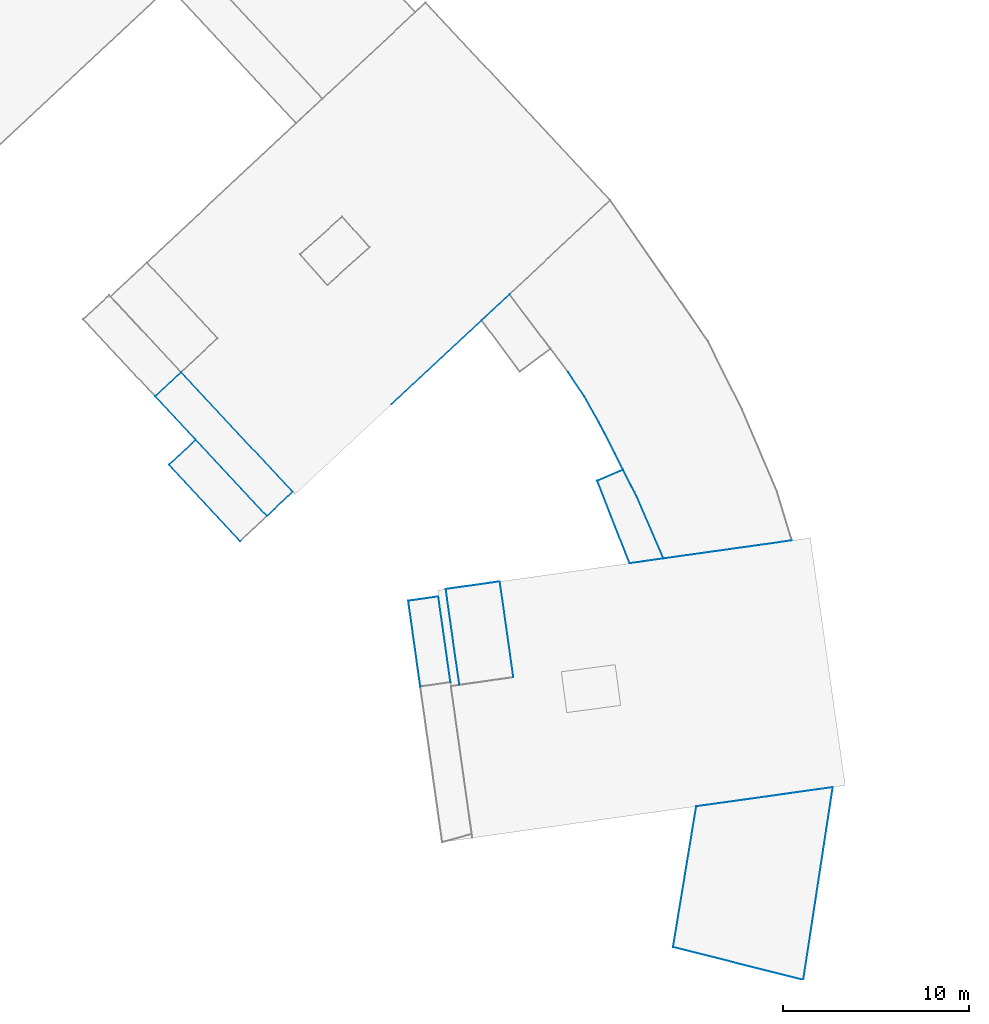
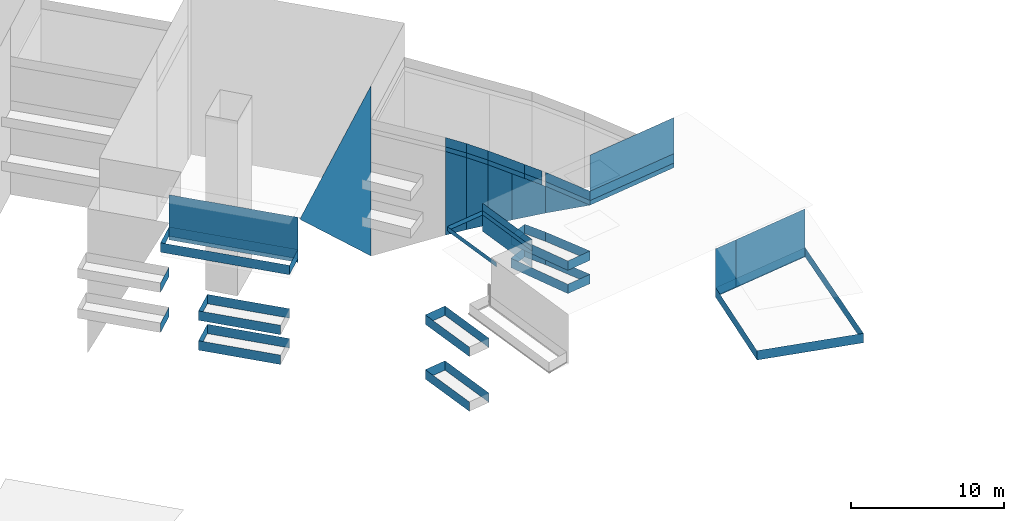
# Not in any storey, part 18 of 136: 99 walls.
"""IFC2X3 building model written with IfcOpenShell, lengths in metres."""

from ifc_helpers import new_model, entity, si_unit, converted_unit, frame, origin, place, context, subcontext, project, spatial, face_set, surface_model, element, save


model = new_model("IFC2X3")

# Units and contexts
model_context = context("Model", 3, precision=1e-05, world=origin())
body_context = subcontext(model_context, "Body", "Model", "MODEL_VIEW")
ifc_project = project(units=[converted_unit("PLANEANGLEUNIT", "DEGREE", entity("IfcRatioMeasure", 0.0174532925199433), si_unit("PLANEANGLEUNIT", "RADIAN"), dimensions=[0, 0, 0, 0, 0, 0, 0]), si_unit("AREAUNIT", "SQUARE_METRE"), si_unit("LENGTHUNIT", "METRE")], contexts=[model_context])

# Site, building
site_placement = place(None, origin())
site = spatial("IfcSite", under=ifc_project, at=site_placement, Name="_site", CompositionType="ELEMENT")
building_1_placement = place(site_placement, origin())
building_1 = spatial("IfcBuilding", under=site, at=building_1_placement, Name="_building", CompositionType="ELEMENT")

# Walls
wall_1_placement = place(building_1_placement, origin())
element("IfcWall", 1, at=wall_1_placement, inside=building_1, Name="Wall", context=body_context, shape_type="SurfaceModel", body=[
    surface_model("IfcFaceBasedSurfaceModel", [(144.0, -39.33, 45.37), (142.61, -40.63, 45.37), (142.61, -40.63, 46.12), (144.0, -39.33, 46.12)], [face_set([[[0, 1, 2, 3]]])]),
])
wall_2_placement = place(building_1_placement, origin())
element("IfcWall", 2, at=wall_2_placement, inside=building_1, Name="Wall", context=body_context, shape_type="SurfaceModel", body=[
    surface_model("IfcFaceBasedSurfaceModel", [(166.41, -45.18, 43.64), (167.8, -44.58, 43.64), (167.8, -44.58, 44.39), (166.41, -45.18, 44.39)], [face_set([[[0, 1, 2, 3]]])]),
])
wall_3_placement = place(building_1_placement, origin())
element("IfcWall", 3, at=wall_3_placement, inside=building_1, Name="Wall", context=body_context, shape_type="SurfaceModel", body=[
    surface_model("IfcFaceBasedSurfaceModel", [(168.15, -49.62, 43.64), (166.41, -45.18, 43.64), (166.41, -45.18, 44.39), (168.15, -49.62, 44.39)], [face_set([[[0, 1, 2, 3]]])]),
])
wall_4_placement = place(building_1_placement, origin())
element("IfcWall", 4, at=wall_4_placement, inside=building_1, Name="Wall", context=body_context, shape_type="SurfaceModel", body=[
    surface_model("IfcFaceBasedSurfaceModel", [(168.54, -46.04, 43.64), (169.98, -49.36, 43.64), (169.98, -49.36, 44.39), (168.54, -46.04, 44.39)], [face_set([[[0, 1, 2, 3]]])]),
])
wall_5_placement = place(building_1_placement, origin())
element("IfcWall", 5, at=wall_5_placement, inside=building_1, Name="Wall", context=body_context, shape_type="SurfaceModel", body=[
    surface_model("IfcFaceBasedSurfaceModel", [(166.41, -45.18, 43.64), (167.8, -44.58, 43.64), (167.8, -44.58, 44.39), (166.41, -45.18, 44.39)], [face_set([[[0, 1, 2, 3]]])]),
])
wall_6_placement = place(building_1_placement, origin())
element("IfcWall", 6, at=wall_6_placement, inside=building_1, Name="Wall", context=body_context, shape_type="SurfaceModel", body=[
    surface_model("IfcFaceBasedSurfaceModel", [(168.15, -49.62, 43.64), (166.41, -45.18, 43.64), (166.41, -45.18, 44.39), (168.15, -49.62, 44.39)], [face_set([[[0, 1, 2, 3]]])]),
])
wall_7_placement = place(building_1_placement, origin())
element("IfcWall", 7, at=wall_7_placement, inside=building_1, Name="Wall", context=body_context, shape_type="SurfaceModel", body=[
    surface_model("IfcFaceBasedSurfaceModel", [(143.35, -44.31, 45.12), (144.79, -42.97, 45.12), (144.79, -42.97, 45.87), (143.35, -44.31, 45.87)], [face_set([[[0, 1, 2, 3]]])]),
])
wall_8_placement = place(building_1_placement, origin())
element("IfcWall", 8, at=wall_8_placement, inside=building_1, Name="Wall", context=body_context, shape_type="SurfaceModel", body=[
    surface_model("IfcFaceBasedSurfaceModel", [(147.18, -48.42, 45.12), (143.35, -44.31, 45.12), (143.35, -44.31, 45.87), (147.18, -48.42, 45.87)], [face_set([[[0, 1, 2, 3]]])]),
])
wall_9_placement = place(building_1_placement, origin())
element("IfcWall", 9, at=wall_9_placement, inside=building_1, Name="Wall", context=body_context, shape_type="SurfaceModel", body=[
    surface_model("IfcFaceBasedSurfaceModel", [(144.79, -42.97, 45.12), (148.62, -47.07, 45.12), (148.62, -47.07, 45.87), (144.79, -42.97, 45.87)], [face_set([[[0, 1, 2, 3]]])]),
])
wall_10_placement = place(building_1_placement, origin())
element("IfcWall", 10, at=wall_10_placement, inside=building_1, Name="Wall", context=body_context, shape_type="SurfaceModel", body=[
    surface_model("IfcFaceBasedSurfaceModel", [(143.35, -44.31, 45.12), (144.79, -42.97, 45.12), (144.79, -42.97, 45.87), (143.35, -44.31, 45.87)], [face_set([[[0, 1, 2, 3]]])]),
])
wall_11_placement = place(building_1_placement, origin())
element("IfcWall", 11, at=wall_11_placement, inside=building_1, Name="Wall", context=body_context, shape_type="SurfaceModel", body=[
    surface_model("IfcFaceBasedSurfaceModel", [(147.18, -48.42, 45.12), (143.35, -44.31, 45.12), (143.35, -44.31, 45.87), (147.18, -48.42, 45.87)], [face_set([[[0, 1, 2, 3]]])]),
])
wall_12_placement = place(building_1_placement, origin())
element("IfcWall", 12, at=wall_12_placement, inside=building_1, Name="Wall", context=body_context, shape_type="SurfaceModel", body=[
    surface_model("IfcFaceBasedSurfaceModel", [(156.23, -51.64, 40.37), (157.85, -51.41, 40.37), (157.85, -51.41, 41.12), (156.23, -51.64, 41.12)], [face_set([[[0, 1, 2, 3]]])]),
])
wall_13_placement = place(building_1_placement, origin())
element("IfcWall", 13, at=wall_13_placement, inside=building_1, Name="Wall", context=body_context, shape_type="SurfaceModel", body=[
    surface_model("IfcFaceBasedSurfaceModel", [(156.88, -56.26, 40.37), (156.23, -51.64, 40.37), (156.23, -51.64, 41.12), (156.88, -56.26, 41.12)], [face_set([[[0, 1, 2, 3]]])]),
])
wall_14_placement = place(building_1_placement, origin())
element("IfcWall", 14, at=wall_14_placement, inside=building_1, Name="Wall", context=body_context, shape_type="SurfaceModel", body=[
    surface_model("IfcFaceBasedSurfaceModel", [(157.85, -51.41, 40.37), (158.5, -56.03, 40.37), (158.5, -56.03, 41.12), (157.85, -51.41, 41.12)], [face_set([[[0, 1, 2, 3]]])]),
])
wall_15_placement = place(building_1_placement, origin())
element("IfcWall", 15, at=wall_15_placement, inside=building_1, Name="Wall", context=body_context, shape_type="SurfaceModel", body=[
    surface_model("IfcFaceBasedSurfaceModel", [(156.23, -51.64, 40.37), (157.85, -51.41, 40.37), (157.85, -51.41, 41.12), (156.23, -51.64, 41.12)], [face_set([[[0, 1, 2, 3]]])]),
])
wall_16_placement = place(building_1_placement, origin())
element("IfcWall", 16, at=wall_16_placement, inside=building_1, Name="Wall", context=body_context, shape_type="SurfaceModel", body=[
    surface_model("IfcFaceBasedSurfaceModel", [(156.88, -56.26, 40.37), (156.23, -51.64, 40.37), (156.23, -51.64, 41.12), (156.88, -56.26, 41.12)], [face_set([[[0, 1, 2, 3]]])]),
])
wall_17_placement = place(building_1_placement, origin())
element("IfcWall", 17, at=wall_17_placement, inside=building_1, Name="Wall", context=body_context, shape_type="SurfaceModel", body=[
    surface_model("IfcFaceBasedSurfaceModel", [(148.62, -47.07, 48.58), (142.61, -40.63, 48.58), (142.61, -40.63, 49.33), (148.62, -47.07, 49.33)], [face_set([[[0, 1, 2, 3]]])]),
])
wall_18_placement = place(building_1_placement, origin())
element("IfcWall", 18, at=wall_18_placement, inside=building_1, Name="Wall", context=body_context, shape_type="SurfaceModel", body=[
    surface_model("IfcFaceBasedSurfaceModel", [(150.01, -45.77, 48.58), (148.62, -47.07, 48.58), (148.62, -47.07, 49.33), (150.01, -45.77, 49.33)], [face_set([[[0, 1, 2, 3]]])]),
])
wall_19_placement = place(building_1_placement, origin())
element("IfcWall", 19, at=wall_19_placement, inside=building_1, Name="Wall", context=body_context, shape_type="SurfaceModel", body=[
    surface_model("IfcFaceBasedSurfaceModel", [(142.61, -40.63, 48.58), (144.0, -39.33, 48.58), (144.0, -39.33, 49.33), (142.61, -40.63, 49.33)], [face_set([[[0, 1, 2, 3]]])]),
])
wall_20_placement = place(building_1_placement, origin())
element("IfcWall", 20, at=wall_20_placement, inside=building_1, Name="Wall", context=body_context, shape_type="SurfaceModel", body=[
    surface_model("IfcFaceBasedSurfaceModel", [(148.62, -47.07, 48.58), (142.61, -40.63, 48.58), (142.61, -40.63, 49.33), (148.62, -47.07, 49.33)], [face_set([[[0, 1, 2, 3]]])]),
])
wall_21_placement = place(building_1_placement, origin())
element("IfcWall", 21, at=wall_21_placement, inside=building_1, Name="Wall", context=body_context, shape_type="SurfaceModel", body=[
    surface_model("IfcFaceBasedSurfaceModel", [(150.01, -45.77, 48.58), (148.62, -47.07, 48.58), (148.62, -47.07, 49.33), (150.01, -45.77, 49.33)], [face_set([[[0, 1, 2, 3]]])]),
])
wall_22_placement = place(building_1_placement, origin())
element("IfcWall", 22, at=wall_22_placement, inside=building_1, Name="Wall", context=body_context, shape_type="SurfaceModel", body=[
    surface_model("IfcFaceBasedSurfaceModel", [(142.61, -40.63, 48.58), (144.0, -39.33, 48.58), (144.0, -39.33, 49.33), (142.61, -40.63, 49.33)], [face_set([[[0, 1, 2, 3]]])]),
])
wall_23_placement = place(building_1_placement, origin())
element("IfcWall", 23, at=wall_23_placement, inside=building_1, Name="Wall", context=body_context, shape_type="SurfaceModel", body=[
    surface_model("IfcFaceBasedSurfaceModel", [(156.23, -51.64, 44.74), (157.85, -51.41, 44.74), (157.85, -51.41, 45.49), (156.23, -51.64, 45.49)], [face_set([[[0, 1, 2, 3]]])]),
])
wall_24_placement = place(building_1_placement, origin())
element("IfcWall", 24, at=wall_24_placement, inside=building_1, Name="Wall", context=body_context, shape_type="SurfaceModel", body=[
    surface_model("IfcFaceBasedSurfaceModel", [(156.88, -56.26, 44.74), (156.23, -51.64, 44.74), (156.23, -51.64, 45.49), (156.88, -56.26, 45.49)], [face_set([[[0, 1, 2, 3]]])]),
])
wall_25_placement = place(building_1_placement, origin())
element("IfcWall", 25, at=wall_25_placement, inside=building_1, Name="Wall", context=body_context, shape_type="SurfaceModel", body=[
    surface_model("IfcFaceBasedSurfaceModel", [(157.85, -51.41, 44.74), (158.5, -56.03, 44.74), (158.5, -56.03, 45.49), (157.85, -51.41, 45.49)], [face_set([[[0, 1, 2, 3]]])]),
])
wall_26_placement = place(building_1_placement, origin())
element("IfcWall", 26, at=wall_26_placement, inside=building_1, Name="Wall", context=body_context, shape_type="SurfaceModel", body=[
    surface_model("IfcFaceBasedSurfaceModel", [(156.23, -51.64, 44.74), (157.85, -51.41, 44.74), (157.85, -51.41, 45.49), (156.23, -51.64, 45.49)], [face_set([[[0, 1, 2, 3]]])]),
])
wall_27_placement = place(building_1_placement, origin())
element("IfcWall", 27, at=wall_27_placement, inside=building_1, Name="Wall", context=body_context, shape_type="SurfaceModel", body=[
    surface_model("IfcFaceBasedSurfaceModel", [(156.88, -56.26, 44.74), (156.23, -51.64, 44.74), (156.23, -51.64, 45.49), (156.88, -56.26, 45.49)], [face_set([[[0, 1, 2, 3]]])]),
])
wall_28_placement = place(building_1_placement, origin())
element("IfcWall", 28, at=wall_28_placement, inside=building_1, Name="Wall", context=body_context, shape_type="SurfaceModel", body=[
    surface_model("IfcFaceBasedSurfaceModel", [(176.89, -48.39, 48.41), (169.98, -49.36, 48.41), (169.98, -49.36, 48.04), (176.89, -48.39, 48.04)], [face_set([[[0, 1, 2, 3]]])]),
])
wall_29_placement = place(building_1_placement, origin())
element("IfcWall", 29, at=wall_29_placement, inside=building_1, Name="Wall", context=body_context, shape_type="SurfaceModel", body=[
    surface_model("IfcFaceBasedSurfaceModel", [(165.71, -40.63, 48.41), (164.85, -39.33, 48.41), (164.85, -39.33, 48.04), (165.71, -40.63, 48.04)], [face_set([[[0, 1, 2, 3]]])]),
])
wall_30_placement = place(building_1_placement, origin())
element("IfcWall", 30, at=wall_30_placement, inside=building_1, Name="Wall", context=body_context, shape_type="SurfaceModel", body=[
    surface_model("IfcFaceBasedSurfaceModel", [(166.51, -42.04, 48.41), (165.71, -40.63, 48.41), (165.71, -40.63, 48.04), (166.51, -42.04, 48.04)], [face_set([[[0, 1, 2, 3]]])]),
])
wall_31_placement = place(building_1_placement, origin())
element("IfcWall", 31, at=wall_31_placement, inside=building_1, Name="Wall", context=body_context, shape_type="SurfaceModel", body=[
    surface_model("IfcFaceBasedSurfaceModel", [(169.98, -49.36, 48.41), (168.54, -46.04, 48.41), (168.54, -46.04, 48.04), (169.98, -49.36, 48.04)], [face_set([[[0, 1, 2, 3]]])]),
])
for number, where, name in (
    (32, (0.0, 0.0, 0.0), "Wall"),
    (33, (0.0, 0.0, 0.0), "Wall"),
):
    element("IfcWall", number, at=place(building_1_placement, frame(where)), inside=building_1, Name=name, context=body_context, shape_type="SurfaceModel", body=[
        surface_model("IfcFaceBasedSurfaceModel", [(170.49, -70.29, 48.2), (171.74, -62.71, 48.2), (171.74, -62.71, 48.95), (170.49, -70.29, 48.95)], [face_set([[[0, 1, 2, 3]]])]),
    ])
wall_32_placement = place(building_1_placement, origin())
element("IfcWall", 34, at=wall_32_placement, inside=building_1, Name="Wall", context=body_context, shape_type="SurfaceModel", body=[
    surface_model("IfcFaceBasedSurfaceModel", [(165.71, -40.63, 48.04), (164.85, -39.33, 48.04), (164.85, -39.33, 41.367), (165.71, -40.63, 42.288)], [face_set([[[0, 1, 2, 3]]])]),
])
wall_33_placement = place(building_1_placement, origin())
element("IfcWall", 35, at=wall_33_placement, inside=building_1, Name="Wall", context=body_context, shape_type="SurfaceModel", body=[
    surface_model("IfcFaceBasedSurfaceModel", [(166.51, -42.04, 48.04), (165.71, -40.63, 48.04), (165.71, -40.63, 42.288), (166.51, -42.04, 43.247)], [face_set([[[0, 1, 2, 3]]])]),
])
wall_34_placement = place(building_1_placement, origin())
element("IfcWall", 36, at=wall_34_placement, inside=building_1, Name="Wall", context=body_context, shape_type="SurfaceModel", body=[
    surface_model("IfcFaceBasedSurfaceModel", [(167.36, -43.72, 48.04), (166.51, -42.04, 48.04), (166.51, -42.04, 43.247), (167.36, -43.72, 44.361)], [face_set([[[0, 1, 2, 3]]])]),
])
wall_35_placement = place(building_1_placement, origin())
element("IfcWall", 37, at=wall_35_placement, inside=building_1, Name="Wall", context=body_context, shape_type="SurfaceModel", body=[
    surface_model("IfcFaceBasedSurfaceModel", [(168.54, -46.04, 48.04), (167.36, -43.72, 48.04), (167.36, -43.72, 44.361), (168.54, -46.04, 45.9)], [face_set([[[0, 1, 2, 3]]])]),
])
wall_36_placement = place(building_1_placement, origin())
element("IfcWall", 38, at=wall_36_placement, inside=building_1, Name="Wall", context=body_context, shape_type="SurfaceModel", body=[
    surface_model("IfcFaceBasedSurfaceModel", [(169.98, -49.36, 48.04), (168.54, -46.04, 48.04), (168.54, -46.04, 45.9)], [face_set([[[0, 1, 2]]])]),
])
wall_37_placement = place(building_1_placement, origin())
element("IfcWall", 39, at=wall_37_placement, inside=building_1, Name="Wall", context=body_context, shape_type="SurfaceModel", body=[
    surface_model("IfcFaceBasedSurfaceModel", [(161.68, -35.13, 51.89), (150.13, -45.899, 51.89), (150.13, -45.899, 51.74), (161.68, -35.13, 38.255)], [face_set([[[0, 1, 2, 3]]])]),
])
wall_38_placement = place(building_1_placement, origin())
element("IfcWall", 40, at=wall_38_placement, inside=building_1, Name="Wall", context=body_context, shape_type="SurfaceModel", body=[
    surface_model("IfcFaceBasedSurfaceModel", [(169.98, -49.36, 52.04), (176.89, -48.39, 52.04), (176.89, -48.39, 48.04), (169.98, -49.36, 48.04)], [face_set([[[0, 1, 2, 3]]])]),
])
wall_39_placement = place(building_1_placement, origin())
element("IfcWall", 41, at=wall_39_placement, inside=building_1, Name="Wall", context=body_context, shape_type="SurfaceModel", body=[
    surface_model("IfcFaceBasedSurfaceModel", [(165.71, -40.63, 48.41), (164.85, -39.33, 48.41), (164.85, -39.33, 49.16), (165.71, -40.63, 49.16)], [face_set([[[0, 1, 2, 3]]])]),
])
wall_40_placement = place(building_1_placement, origin())
element("IfcWall", 42, at=wall_40_placement, inside=building_1, Name="Wall", context=body_context, shape_type="SurfaceModel", body=[
    surface_model("IfcFaceBasedSurfaceModel", [(166.51, -42.04, 48.41), (165.71, -40.63, 48.41), (165.71, -40.63, 49.16), (166.51, -42.04, 49.16)], [face_set([[[0, 1, 2, 3]]])]),
])
wall_41_placement = place(building_1_placement, origin())
element("IfcWall", 43, at=wall_41_placement, inside=building_1, Name="Wall", context=body_context, shape_type="SurfaceModel", body=[
    surface_model("IfcFaceBasedSurfaceModel", [(167.8, -44.58, 48.41), (166.51, -42.04, 48.41), (166.51, -42.04, 49.16), (167.8, -44.58, 49.16)], [face_set([[[0, 1, 2, 3]]])]),
])
wall_42_placement = place(building_1_placement, origin())
element("IfcWall", 44, at=wall_42_placement, inside=building_1, Name="Wall", context=body_context, shape_type="SurfaceModel", body=[
    surface_model("IfcFaceBasedSurfaceModel", [(168.42, -45.8, 48.41), (167.8, -44.58, 48.41), (167.8, -44.58, 49.16), (168.42, -45.8, 49.16)], [face_set([[[0, 1, 2, 3]]])]),
])
wall_43_placement = place(building_1_placement, origin())
element("IfcWall", 45, at=wall_43_placement, inside=building_1, Name="Wall", context=body_context, shape_type="SurfaceModel", body=[
    surface_model("IfcFaceBasedSurfaceModel", [(169.98, -49.36, 48.41), (168.54, -46.04, 48.41), (168.54, -46.04, 49.16), (169.98, -49.36, 49.16)], [face_set([[[0, 1, 2, 3]]])]),
])
wall_44_placement = place(building_1_placement, origin())
element("IfcWall", 46, at=wall_44_placement, inside=building_1, Name="Wall", context=body_context, shape_type="SurfaceModel", body=[
    surface_model("IfcFaceBasedSurfaceModel", [(176.89, -48.39, 48.41), (169.98, -49.36, 48.41), (169.98, -49.36, 49.16), (176.89, -48.39, 49.16)], [face_set([[[0, 1, 2, 3]]])]),
])
wall_45_placement = place(building_1_placement, origin())
element("IfcWall", 47, at=wall_45_placement, inside=building_1, Name="Wall", context=body_context, shape_type="SurfaceModel", body=[
    surface_model("IfcFaceBasedSurfaceModel", [(165.71, -40.63, 48.41), (164.85, -39.33, 48.41), (164.85, -39.33, 49.16), (165.71, -40.63, 49.16)], [face_set([[[0, 1, 2, 3]]])]),
])
wall_46_placement = place(building_1_placement, origin())
element("IfcWall", 48, at=wall_46_placement, inside=building_1, Name="Wall", context=body_context, shape_type="SurfaceModel", body=[
    surface_model("IfcFaceBasedSurfaceModel", [(166.51, -42.04, 48.41), (165.71, -40.63, 48.41), (165.71, -40.63, 49.16), (166.51, -42.04, 49.16)], [face_set([[[0, 1, 2, 3]]])]),
])
wall_47_placement = place(building_1_placement, origin())
element("IfcWall", 49, at=wall_47_placement, inside=building_1, Name="Wall", context=body_context, shape_type="SurfaceModel", body=[
    surface_model("IfcFaceBasedSurfaceModel", [(169.98, -49.36, 48.41), (168.54, -46.04, 48.41), (168.54, -46.04, 49.16), (169.98, -49.36, 49.16)], [face_set([[[0, 1, 2, 3]]])]),
])
wall_48_placement = place(building_1_placement, origin())
element("IfcWall", 50, at=wall_48_placement, inside=building_1, Name="Wall", context=body_context, shape_type="SurfaceModel", body=[
    surface_model("IfcFaceBasedSurfaceModel", [(158.25, -51.01, 51.45), (161.16, -50.6, 51.45), (161.16, -50.6, 51.1), (158.25, -51.01, 51.1)], [face_set([[[0, 1, 2, 3]]])]),
])
wall_49_placement = place(building_1_placement, origin())
element("IfcWall", 51, at=wall_49_placement, inside=building_1, Name="Wall", context=body_context, shape_type="SurfaceModel", body=[
    surface_model("IfcFaceBasedSurfaceModel", [(144.0, -39.33, 42.17), (142.61, -40.63, 42.17), (142.61, -40.63, 42.92), (144.0, -39.33, 42.92)], [face_set([[[0, 1, 2, 3]]])]),
])
wall_50_placement = place(building_1_placement, origin())
element("IfcWall", 52, at=wall_50_placement, inside=building_1, Name="Wall", context=body_context, shape_type="SurfaceModel", body=[
    surface_model("IfcFaceBasedSurfaceModel", [(143.35, -44.31, 42.74), (144.79, -42.97, 42.74), (144.79, -42.97, 43.49), (143.35, -44.31, 43.49)], [face_set([[[0, 1, 2, 3]]])]),
])
wall_51_placement = place(building_1_placement, origin())
element("IfcWall", 53, at=wall_51_placement, inside=building_1, Name="Wall", context=body_context, shape_type="SurfaceModel", body=[
    surface_model("IfcFaceBasedSurfaceModel", [(147.18, -48.42, 42.74), (143.35, -44.31, 42.74), (143.35, -44.31, 43.49), (147.18, -48.42, 43.49)], [face_set([[[0, 1, 2, 3]]])]),
])
wall_52_placement = place(building_1_placement, origin())
element("IfcWall", 54, at=wall_52_placement, inside=building_1, Name="Wall", context=body_context, shape_type="SurfaceModel", body=[
    surface_model("IfcFaceBasedSurfaceModel", [(144.79, -42.97, 42.74), (148.62, -47.07, 42.74), (148.62, -47.07, 43.49), (144.79, -42.97, 43.49)], [face_set([[[0, 1, 2, 3]]])]),
])
wall_53_placement = place(building_1_placement, origin())
element("IfcWall", 55, at=wall_53_placement, inside=building_1, Name="Wall", context=body_context, shape_type="SurfaceModel", body=[
    surface_model("IfcFaceBasedSurfaceModel", [(143.35, -44.31, 42.74), (144.79, -42.97, 42.74), (144.79, -42.97, 43.49), (143.35, -44.31, 43.49)], [face_set([[[0, 1, 2, 3]]])]),
])
wall_54_placement = place(building_1_placement, origin())
element("IfcWall", 56, at=wall_54_placement, inside=building_1, Name="Wall", context=body_context, shape_type="SurfaceModel", body=[
    surface_model("IfcFaceBasedSurfaceModel", [(147.18, -48.42, 42.74), (143.35, -44.31, 42.74), (143.35, -44.31, 43.49), (147.18, -48.42, 43.49)], [face_set([[[0, 1, 2, 3]]])]),
])
wall_55_placement = place(building_1_placement, origin())
element("IfcWall", 57, at=wall_55_placement, inside=building_1, Name="Wall", context=body_context, shape_type="SurfaceModel", body=[
    surface_model("IfcFaceBasedSurfaceModel", [(166.41, -45.18, 41.78), (167.8, -44.58, 41.78), (167.8, -44.58, 42.53), (166.41, -45.18, 42.53)], [face_set([[[0, 1, 2, 3]]])]),
])
wall_56_placement = place(building_1_placement, origin())
element("IfcWall", 58, at=wall_56_placement, inside=building_1, Name="Wall", context=body_context, shape_type="SurfaceModel", body=[
    surface_model("IfcFaceBasedSurfaceModel", [(168.15, -49.62, 41.78), (166.41, -45.18, 41.78), (166.41, -45.18, 42.53), (168.15, -49.62, 42.53)], [face_set([[[0, 1, 2, 3]]])]),
])
wall_57_placement = place(building_1_placement, origin())
element("IfcWall", 59, at=wall_57_placement, inside=building_1, Name="Wall", context=body_context, shape_type="SurfaceModel", body=[
    surface_model("IfcFaceBasedSurfaceModel", [(168.54, -46.04, 41.78), (169.98, -49.36, 41.78), (169.98, -49.36, 42.53), (168.54, -46.04, 42.53)], [face_set([[[0, 1, 2, 3]]])]),
])
wall_58_placement = place(building_1_placement, origin())
element("IfcWall", 60, at=wall_58_placement, inside=building_1, Name="Wall", context=body_context, shape_type="SurfaceModel", body=[
    surface_model("IfcFaceBasedSurfaceModel", [(166.41, -45.18, 41.78), (167.8, -44.58, 41.78), (167.8, -44.58, 42.53), (166.41, -45.18, 42.53)], [face_set([[[0, 1, 2, 3]]])]),
])
wall_59_placement = place(building_1_placement, origin())
element("IfcWall", 61, at=wall_59_placement, inside=building_1, Name="Wall", context=body_context, shape_type="SurfaceModel", body=[
    surface_model("IfcFaceBasedSurfaceModel", [(168.15, -49.62, 41.78), (166.41, -45.18, 41.78), (166.41, -45.18, 42.53), (168.15, -49.62, 42.53)], [face_set([[[0, 1, 2, 3]]])]),
])

# Building
building_2_placement = place(site_placement, origin())
building_2 = spatial("IfcBuilding", under=site, at=building_2_placement, Name="_building", CompositionType="ELEMENT")

# Walls
wall_60_placement = place(building_2_placement, origin())
element("IfcWall", 62, at=wall_60_placement, inside=building_2, Name="Wall", context=body_context, shape_type="SurfaceModel", body=[
    surface_model("IfcFaceBasedSurfaceModel", [(144.0, -39.33, 45.37), (142.61, -40.63, 45.37), (142.61, -40.63, 46.12), (144.0, -39.33, 46.12)], [face_set([[[0, 1, 2, 3]]])]),
])
wall_61_placement = place(building_2_placement, origin())
element("IfcWall", 63, at=wall_61_placement, inside=building_2, Name="Wall", context=body_context, shape_type="SurfaceModel", body=[
    surface_model("IfcFaceBasedSurfaceModel", [(168.54, -46.04, 43.64), (169.98, -49.36, 43.64), (169.98, -49.36, 44.39), (168.54, -46.04, 44.39)], [face_set([[[0, 1, 2, 3]]])]),
])
for number, where, name in (
    (64, (0.0, 0.0, 0.0), "Wall"),
    (65, (0.0, 0.0, 0.0), "Wall"),
):
    element("IfcWall", number, at=place(building_2_placement, frame(where)), inside=building_2, Name=name, context=body_context, shape_type="SurfaceModel", body=[
        surface_model("IfcFaceBasedSurfaceModel", [(167.8, -44.58, 43.64), (168.54, -46.04, 43.64), (168.54, -46.04, 44.39), (167.8, -44.58, 44.39)], [face_set([[[0, 1, 2, 3]]])]),
    ])
wall_62_placement = place(building_2_placement, origin())
element("IfcWall", 66, at=wall_62_placement, inside=building_2, Name="Wall", context=body_context, shape_type="SurfaceModel", body=[
    surface_model("IfcFaceBasedSurfaceModel", [(144.79, -42.97, 45.12), (148.62, -47.07, 45.12), (148.62, -47.07, 45.87), (144.79, -42.97, 45.87)], [face_set([[[0, 1, 2, 3]]])]),
])
for number, where, name in (
    (67, (0.0, 0.0, 0.0), "Wall"),
    (68, (0.0, 0.0, 0.0), "Wall"),
):
    element("IfcWall", number, at=place(building_2_placement, frame(where)), inside=building_2, Name=name, context=body_context, shape_type="SurfaceModel", body=[
        surface_model("IfcFaceBasedSurfaceModel", [(144.0, -39.33, 48.58), (150.01, -45.77, 48.58), (150.01, -45.77, 49.33), (144.0, -39.33, 49.33)], [face_set([[[0, 1, 2, 3]]])]),
    ])
wall_63_placement = place(building_2_placement, origin())
element("IfcWall", 69, at=wall_63_placement, inside=building_2, Name="Wall", context=body_context, shape_type="SurfaceModel", body=[
    surface_model("IfcFaceBasedSurfaceModel", [(167.8, -44.58, 48.41), (166.51, -42.04, 48.41), (166.51, -42.04, 48.04), (167.8, -44.58, 48.04)], [face_set([[[0, 1, 2, 3]]])]),
])
wall_64_placement = place(building_2_placement, origin())
element("IfcWall", 70, at=wall_64_placement, inside=building_2, Name="Wall", context=body_context, shape_type="SurfaceModel", body=[
    surface_model("IfcFaceBasedSurfaceModel", [(168.42, -45.8, 48.41), (167.8, -44.58, 48.41), (167.8, -44.58, 48.04), (168.42, -45.8, 48.04)], [face_set([[[0, 1, 2, 3]]])]),
])
wall_65_placement = place(building_2_placement, origin())
element("IfcWall", 71, at=wall_65_placement, inside=building_2, Name="Wall", context=body_context, shape_type="SurfaceModel", body=[
    surface_model("IfcFaceBasedSurfaceModel", [(150.01, -45.77, 51.89), (144.0, -39.33, 51.89), (144.0, -39.33, 48.29), (150.01, -45.77, 48.29)], [face_set([[[0, 1, 2, 3]]])]),
])
wall_66_placement = place(building_2_placement, origin())
element("IfcWall", 72, at=wall_66_placement, inside=building_2, Name="Wall", context=body_context, shape_type="SurfaceModel", body=[
    surface_model("IfcFaceBasedSurfaceModel", [(167.8, -44.58, 48.41), (166.51, -42.04, 48.41), (166.51, -42.04, 49.16), (167.8, -44.58, 49.16)], [face_set([[[0, 1, 2, 3]]])]),
])
wall_67_placement = place(building_2_placement, origin())
element("IfcWall", 73, at=wall_67_placement, inside=building_2, Name="Wall", context=body_context, shape_type="SurfaceModel", body=[
    surface_model("IfcFaceBasedSurfaceModel", [(168.42, -45.8, 48.41), (167.8, -44.58, 48.41), (167.8, -44.58, 49.16), (168.42, -45.8, 49.16)], [face_set([[[0, 1, 2, 3]]])]),
])
wall_68_placement = place(building_2_placement, origin())
element("IfcWall", 74, at=wall_68_placement, inside=building_2, Name="Wall", context=body_context, shape_type="SurfaceModel", body=[
    surface_model("IfcFaceBasedSurfaceModel", [(144.0, -39.33, 42.17), (142.61, -40.63, 42.17), (142.61, -40.63, 42.92), (144.0, -39.33, 42.92)], [face_set([[[0, 1, 2, 3]]])]),
])
wall_69_placement = place(building_2_placement, origin())
element("IfcWall", 75, at=wall_69_placement, inside=building_2, Name="Wall", context=body_context, shape_type="SurfaceModel", body=[
    surface_model("IfcFaceBasedSurfaceModel", [(144.79, -42.97, 42.74), (148.62, -47.07, 42.74), (148.62, -47.07, 43.49), (144.79, -42.97, 43.49)], [face_set([[[0, 1, 2, 3]]])]),
])
wall_70_placement = place(building_2_placement, origin())
element("IfcWall", 76, at=wall_70_placement, inside=building_2, Name="Wall", context=body_context, shape_type="SurfaceModel", body=[
    surface_model("IfcFaceBasedSurfaceModel", [(168.54, -46.04, 41.78), (169.98, -49.36, 41.78), (169.98, -49.36, 42.53), (168.54, -46.04, 42.53)], [face_set([[[0, 1, 2, 3]]])]),
])
for number, where, name in (
    (77, (0.0, 0.0, 0.0), "Wall"),
    (78, (0.0, 0.0, 0.0), "Wall"),
):
    element("IfcWall", number, at=place(building_2_placement, frame(where)), inside=building_2, Name=name, context=body_context, shape_type="SurfaceModel", body=[
        surface_model("IfcFaceBasedSurfaceModel", [(167.8, -44.58, 41.78), (168.54, -46.04, 41.78), (168.54, -46.04, 42.53), (167.8, -44.58, 42.53)], [face_set([[[0, 1, 2, 3]]])]),
    ])

# Building
building_3_placement = place(site_placement, origin())
building_3 = spatial("IfcBuilding", under=site, at=building_3_placement, Name="_building", CompositionType="ELEMENT")

# Walls
for number, where, name in (
    (79, (0.0, 0.0, 0.0), "Wall"),
    (80, (0.0, 0.0, 0.0), "Wall"),
):
    element("IfcWall", number, at=place(building_3_placement, frame(where)), inside=building_3, Name=name, context=body_context, shape_type="SurfaceModel", body=[
        surface_model("IfcFaceBasedSurfaceModel", [(169.98, -49.36, 43.64), (168.15, -49.62, 43.64), (168.15, -49.62, 44.39), (169.98, -49.36, 44.39)], [face_set([[[0, 1, 2, 3]]])]),
    ])
wall_71_placement = place(building_3_placement, origin())
element("IfcWall", 81, at=wall_71_placement, inside=building_3, Name="Wall", context=body_context, shape_type="SurfaceModel", body=[
    surface_model("IfcFaceBasedSurfaceModel", [(157.85, -51.41, 40.37), (158.5, -56.03, 40.37), (158.5, -56.03, 41.12), (157.85, -51.41, 41.12)], [face_set([[[0, 1, 2, 3]]])]),
])
wall_72_placement = place(building_3_placement, origin())
element("IfcWall", 82, at=wall_72_placement, inside=building_3, Name="Wall", context=body_context, shape_type="SurfaceModel", body=[
    surface_model("IfcFaceBasedSurfaceModel", [(157.85, -51.41, 44.74), (158.5, -56.03, 44.74), (158.5, -56.03, 45.49), (157.85, -51.41, 45.49)], [face_set([[[0, 1, 2, 3]]])]),
])
wall_73_placement = place(building_3_placement, origin())
element("IfcWall", 83, at=wall_73_placement, inside=building_3, Name="Wall", context=body_context, shape_type="SurfaceModel", body=[
    surface_model("IfcFaceBasedSurfaceModel", [(171.74, -62.71, 48.2), (179.09, -61.68, 48.2), (179.09, -61.68, 48.95), (171.74, -62.71, 48.95)], [face_set([[[0, 1, 2, 3]]])]),
])
wall_74_placement = place(building_3_placement, origin())
element("IfcWall", 84, at=wall_74_placement, inside=building_3, Name="Wall", context=body_context, shape_type="SurfaceModel", body=[
    surface_model("IfcFaceBasedSurfaceModel", [(177.5, -72.06, 48.2), (170.49, -70.29, 48.2), (170.49, -70.29, 48.95), (177.5, -72.06, 48.95)], [face_set([[[0, 1, 2, 3]]])]),
])
wall_75_placement = place(building_3_placement, origin())
element("IfcWall", 85, at=wall_75_placement, inside=building_3, Name="Wall", context=body_context, shape_type="SurfaceModel", body=[
    surface_model("IfcFaceBasedSurfaceModel", [(179.09, -61.68, 48.2), (177.5, -72.06, 48.2), (177.5, -72.06, 48.95), (179.09, -61.68, 48.95)], [face_set([[[0, 1, 2, 3]]])]),
])
wall_76_placement = place(building_3_placement, origin())
element("IfcWall", 86, at=wall_76_placement, inside=building_3, Name="Wall", context=body_context, shape_type="SurfaceModel", body=[
    surface_model("IfcFaceBasedSurfaceModel", [(171.74, -62.71, 48.2), (179.09, -61.68, 48.2), (179.09, -61.68, 48.95), (171.74, -62.71, 48.95)], [face_set([[[0, 1, 2, 3]]])]),
])
wall_77_placement = place(building_3_placement, origin())
element("IfcWall", 87, at=wall_77_placement, inside=building_3, Name="Wall", context=body_context, shape_type="SurfaceModel", body=[
    surface_model("IfcFaceBasedSurfaceModel", [(177.5, -72.06, 48.2), (170.49, -70.29, 48.2), (170.49, -70.29, 48.95), (177.5, -72.06, 48.95)], [face_set([[[0, 1, 2, 3]]])]),
])
wall_78_placement = place(building_3_placement, origin())
element("IfcWall", 88, at=wall_78_placement, inside=building_3, Name="Wall", context=body_context, shape_type="SurfaceModel", body=[
    surface_model("IfcFaceBasedSurfaceModel", [(179.09, -61.68, 48.2), (177.5, -72.06, 48.2), (177.5, -72.06, 48.95), (179.09, -61.68, 48.95)], [face_set([[[0, 1, 2, 3]]])]),
])
wall_79_placement = place(building_3_placement, origin())
element("IfcWall", 89, at=wall_79_placement, inside=building_3, Name="Wall", context=body_context, shape_type="SurfaceModel", body=[
    surface_model("IfcFaceBasedSurfaceModel", [(161.89, -55.76, 52.04), (161.16, -50.6, 52.04), (161.16, -50.6, 49.79), (161.89, -55.76, 49.79)], [face_set([[[0, 1, 2, 3]]])]),
])
wall_80_placement = place(building_3_placement, origin())
element("IfcWall", 90, at=wall_80_placement, inside=building_3, Name="Wall", context=body_context, shape_type="SurfaceModel", body=[
    surface_model("IfcFaceBasedSurfaceModel", [(173.4, -62.479, 52.04), (171.74, -62.71, 52.04), (171.74, -62.71, 48.27), (173.4, -62.479, 48.27)], [face_set([[[0, 1, 2, 3]]])]),
])
wall_81_placement = place(building_3_placement, origin())
element("IfcWall", 91, at=wall_81_placement, inside=building_3, Name="Wall", context=body_context, shape_type="SurfaceModel", body=[
    surface_model("IfcFaceBasedSurfaceModel", [(179.09, -61.68, 52.04), (173.4, -62.479, 52.04), (173.4, -62.479, 48.27), (179.09, -61.68, 48.27)], [face_set([[[0, 1, 2, 3]]])]),
])
wall_82_placement = place(building_3_placement, origin())
element("IfcWall", 92, at=wall_82_placement, inside=building_3, Name="Wall", context=body_context, shape_type="SurfaceModel", body=[
    surface_model("IfcFaceBasedSurfaceModel", [(176.89, -48.39, 48.41), (169.98, -49.36, 48.41), (169.98, -49.36, 49.16), (176.89, -48.39, 49.16)], [face_set([[[0, 1, 2, 3]]])]),
])
wall_83_placement = place(building_3_placement, origin())
element("IfcWall", 93, at=wall_83_placement, inside=building_3, Name="Wall", context=body_context, shape_type="SurfaceModel", body=[
    surface_model("IfcFaceBasedSurfaceModel", [(158.98, -56.17, 51.45), (158.25, -51.01, 51.45), (158.25, -51.01, 51.1), (158.98, -56.17, 51.1)], [face_set([[[0, 1, 2, 3]]])]),
])
wall_84_placement = place(building_3_placement, origin())
element("IfcWall", 94, at=wall_84_placement, inside=building_3, Name="Wall", context=body_context, shape_type="SurfaceModel", body=[
    surface_model("IfcFaceBasedSurfaceModel", [(161.16, -50.6, 51.45), (161.89, -55.76, 51.45), (161.89, -55.76, 51.1), (161.16, -50.6, 51.1)], [face_set([[[0, 1, 2, 3]]])]),
])
wall_85_placement = place(building_3_placement, origin())
element("IfcWall", 95, at=wall_85_placement, inside=building_3, Name="Wall", context=body_context, shape_type="SurfaceModel", body=[
    surface_model("IfcFaceBasedSurfaceModel", [(158.25, -51.01, 51.45), (161.16, -50.6, 51.45), (161.16, -50.6, 51.1), (158.25, -51.01, 51.1)], [face_set([[[0, 1, 2, 3]]])]),
])
wall_86_placement = place(building_3_placement, origin())
element("IfcWall", 96, at=wall_86_placement, inside=building_3, Name="Wall", context=body_context, shape_type="SurfaceModel", body=[
    surface_model("IfcFaceBasedSurfaceModel", [(158.98, -56.17, 51.45), (158.25, -51.01, 51.45), (158.25, -51.01, 51.1), (158.98, -56.17, 51.1)], [face_set([[[0, 1, 2, 3]]])]),
])
wall_87_placement = place(building_3_placement, origin())
element("IfcWall", 97, at=wall_87_placement, inside=building_3, Name="Wall", context=body_context, shape_type="SurfaceModel", body=[
    surface_model("IfcFaceBasedSurfaceModel", [(161.16, -50.6, 51.45), (161.89, -55.76, 51.45), (161.89, -55.76, 51.1), (161.16, -50.6, 51.1)], [face_set([[[0, 1, 2, 3]]])]),
])
for number, where, name in (
    (98, (0.0, 0.0, 0.0), "Wall"),
    (99, (0.0, 0.0, 0.0), "Wall"),
):
    element("IfcWall", number, at=place(building_3_placement, frame(where)), inside=building_3, Name=name, context=body_context, shape_type="SurfaceModel", body=[
        surface_model("IfcFaceBasedSurfaceModel", [(169.98, -49.36, 41.78), (168.15, -49.62, 41.78), (168.15, -49.62, 42.53), (169.98, -49.36, 42.53)], [face_set([[[0, 1, 2, 3]]])]),
    ])

save(model, "model.ifc")
